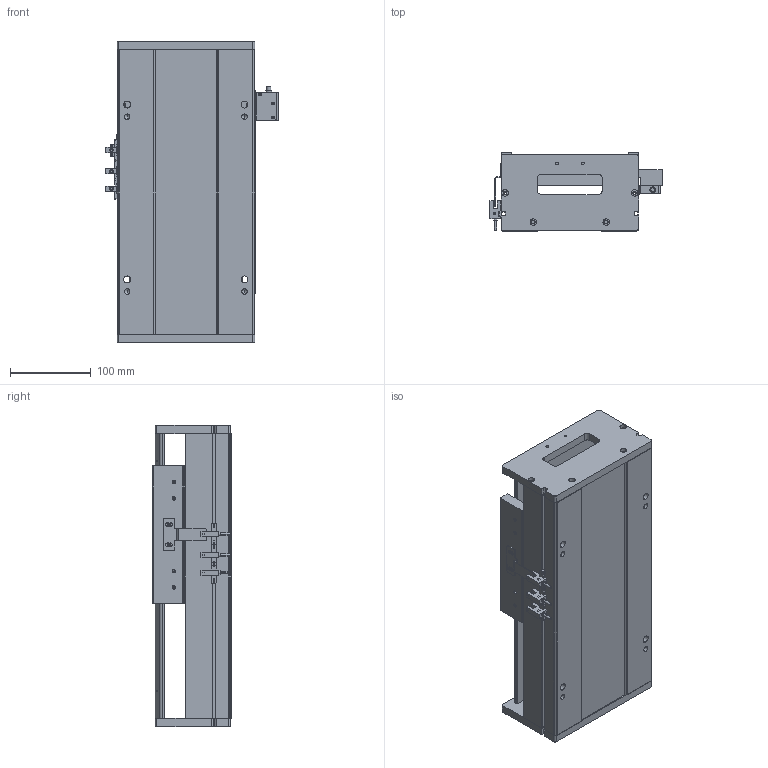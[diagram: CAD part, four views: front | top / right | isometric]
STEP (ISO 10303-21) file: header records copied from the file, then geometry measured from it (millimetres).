
FILE_DESCRIPTION (( 'STEP AP203' ), '1' );
FILE_NAME ('SKR17S-C1-S102（简）.STEP', '2022-09-29T02:19:20', ( '' ), ( '' ), 'SwSTEP 2.0', 'SolidWorks 2018', '' );
FILE_SCHEMA (( 'CONFIG_CONTROL_DESIGN' ));
Length unit declared in the file: millimetre
Products named in the file (8): 棠掑假蚾輸; SKR17耜啣; SKR17滑台-170L（简）; 感应片（SKR12S-14S-17S）; EE-SX672; SKR17S-C1-S102（简）; SKR17菁釱-C1-S102(潠); SIKO棠掑
Assembly tree (10 placements, depth 2):
  SKR17S-C1-S102（简）
    SKR17菁釱-C1-S102(潠)
    SKR17滑台-170L（简）
    SIKO棠掑
    EE-SX672  x3
    SKR17耜啣  x2
    棠掑假蚾輸
    感应片（SKR12S-14S-17S）
Bounding box: 212.7 x 97 x 372 mm (x, y, z)
Volume: 3422837.3 mm3; surface area: 503371.3 mm2
Topology: 11 solids, 11 shells, 897 faces, 2450 edges, 1579 vertices
Faces by surface type: plane 411, cylinder 386, cone 100
Entity records: 25478 total; most frequent: CARTESIAN_POINT 5849, ORIENTED_EDGE 3960, DIRECTION 3896, EDGE_CURVE 1980, AXIS2_PLACEMENT_3D 1378, VERTEX_POINT 1283, LINE 1140, VECTOR 1140
